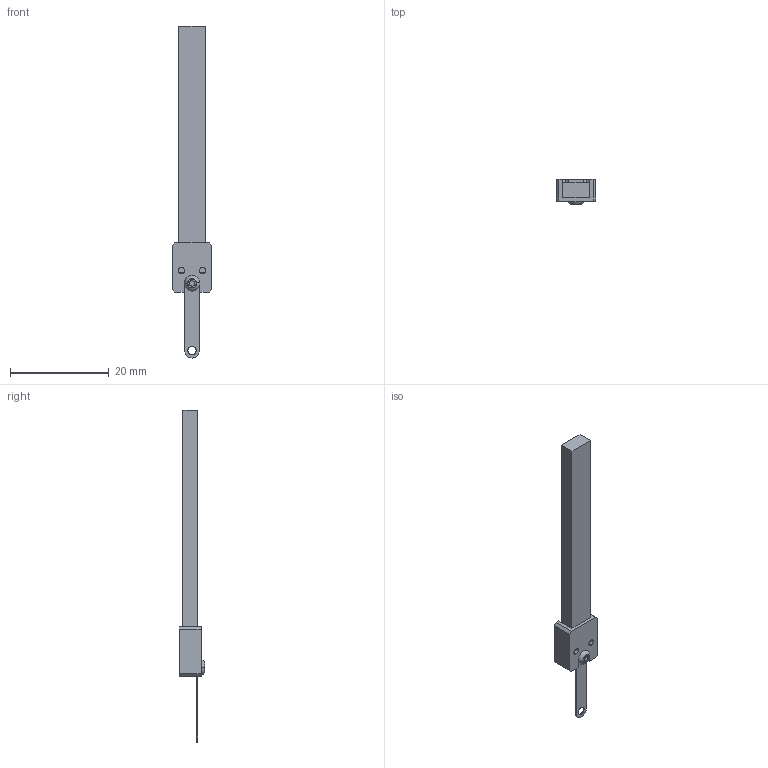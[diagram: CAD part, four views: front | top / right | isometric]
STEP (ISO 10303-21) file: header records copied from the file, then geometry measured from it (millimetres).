
FILE_DESCRIPTION (( 'STEP AP214' ), '1' );
FILE_NAME ('LT4050A_DriveRod_050D1D2-PiezoMotor.STEP', '2017-08-14T09:41:07', ( '' ), ( '' ), 'SwSTEP 2.0', 'SolidWorks 2016', '' );
FILE_SCHEMA (( 'AUTOMOTIVE_DESIGN' ));
Length unit declared in the file: millimetre
Products named in the file (1): LT4050A_DriveRod_050D1D2-PiezoMotor
Bounding box: 8 x 5.1 x 67.35 mm (x, y, z)
Volume: 1021.7 mm3; surface area: 1378 mm2
Topology: 4 solids, 4 shells, 77 faces, 199 edges, 130 vertices
Faces by surface type: cylinder 35, plane 34, cone 6, torus 2
Entity records: 2476 total; most frequent: DIRECTION 439, CARTESIAN_POINT 407, ORIENTED_EDGE 398, EDGE_CURVE 199, AXIS2_PLACEMENT_3D 162, VERTEX_POINT 130, VECTOR 115, LINE 115
